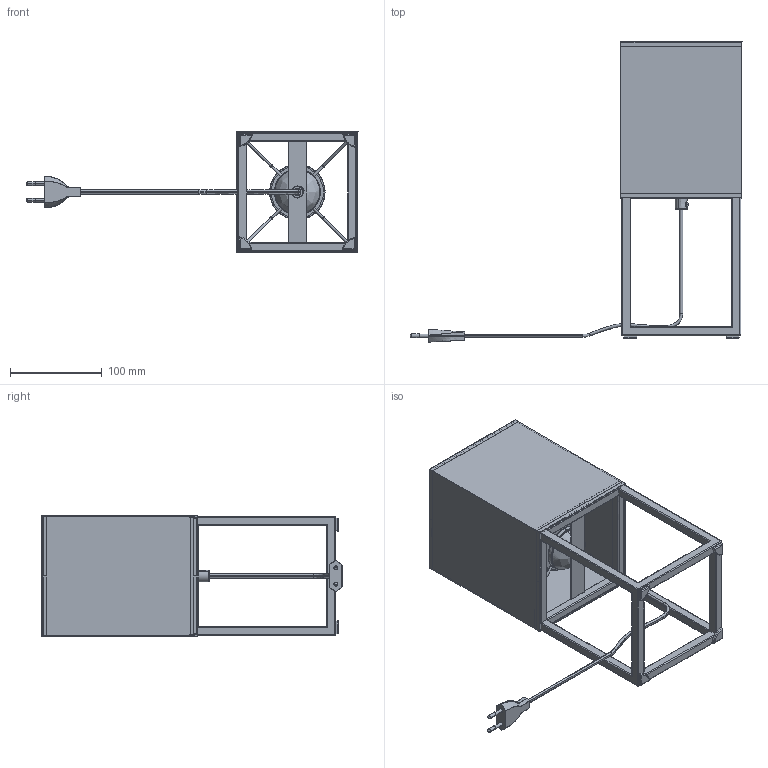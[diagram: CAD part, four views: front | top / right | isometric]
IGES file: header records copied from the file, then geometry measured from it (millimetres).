
Start section: SolidWorks IGES file using analytic representation for surfaces
Global section: file name: E:\3D lampy\Flam\Flam_9732\Flam_9732.IGS; native system: SolidWorks 2016; preprocessor: SolidWorks 2016; author: Asia; date: 170927.144558; units: millimetre
Bounding box: 362.41 x 327.62 x 132.4 mm (x, y, z)
Surface area: 330409.3 mm2 (no closed solid volume)
Topology: 0 solids, 0 shells, 562 faces, 7017 edges, 6981 vertices
Faces by surface type: bspline 309, revolution 253
